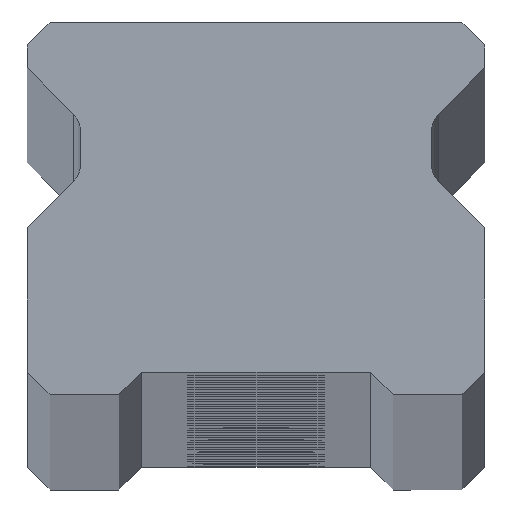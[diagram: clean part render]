
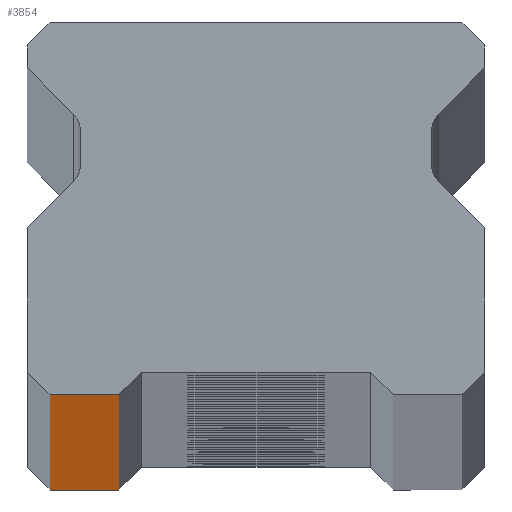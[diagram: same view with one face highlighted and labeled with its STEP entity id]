
A CAD part, top view. The second image highlights one B-rep face of the part: STEP entity #3854.
In plain terms, the highlighted planar face has unit normal (0, -1, 0).
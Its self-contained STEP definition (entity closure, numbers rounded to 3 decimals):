
#289 = VERTEX_POINT ( 'NONE', #838 ) ;
#451 = DIRECTION ( 'NONE',  ( 0., 0., -1. ) ) ;
#592 = EDGE_CURVE ( 'NONE', #5071, #289, #2352, .T. ) ;
#838 = CARTESIAN_POINT ( 'NONE',  ( -9., 0., -1190. ) ) ;
#1080 = VERTEX_POINT ( 'NONE', #6048 ) ;
#1141 = CARTESIAN_POINT ( 'NONE',  ( -6., 0., -1190. ) ) ;
#1292 = DIRECTION ( 'NONE',  ( 0., 1., 0. ) ) ;
#1506 = VECTOR ( 'NONE', #451, 1000. ) ;
#1605 = EDGE_CURVE ( 'NONE', #1805, #1080, #4202, .T. ) ;
#1776 = DIRECTION ( 'NONE',  ( 0., 0., 1. ) ) ;
#1805 = VERTEX_POINT ( 'NONE', #3251 ) ;
#1842 = DIRECTION ( 'NONE',  ( 1., 0., 0. ) ) ;
#2352 = LINE ( 'NONE', #5890, #1506 ) ;
#2429 = ORIENTED_EDGE ( 'NONE', *, *, #1605, .T. ) ;
#2633 = AXIS2_PLACEMENT_3D ( 'NONE', #6679, #1292, #3501 ) ;
#3251 = CARTESIAN_POINT ( 'NONE',  ( -6., 0., -1190. ) ) ;
#3501 = DIRECTION ( 'NONE',  ( -1., 0., 0. ) ) ;
#3504 = CARTESIAN_POINT ( 'NONE',  ( 10., 0., -1190. ) ) ;
#3749 = FACE_OUTER_BOUND ( 'NONE', #5762, .T. ) ;
#3854 = ADVANCED_FACE ( 'NONE', ( #3749 ), #4575, .F. ) ;
#3887 = VECTOR ( 'NONE', #6114, 1000. ) ;
#4020 = LINE ( 'NONE', #5578, #6828 ) ;
#4202 = LINE ( 'NONE', #1141, #5385 ) ;
#4386 = ORIENTED_EDGE ( 'NONE', *, *, #5924, .T. ) ;
#4525 = EDGE_CURVE ( 'NONE', #5071, #1080, #4020, .T. ) ;
#4575 = PLANE ( 'NONE',  #2633 ) ;
#5071 = VERTEX_POINT ( 'NONE', #5195 ) ;
#5195 = CARTESIAN_POINT ( 'NONE',  ( -9., 0., 1190. ) ) ;
#5385 = VECTOR ( 'NONE', #1776, 1000. ) ;
#5578 = CARTESIAN_POINT ( 'NONE',  ( 10., 0., 1190. ) ) ;
#5762 = EDGE_LOOP ( 'NONE', ( #4386, #2429, #6040, #5981 ) ) ;
#5890 = CARTESIAN_POINT ( 'NONE',  ( -9., 0., 1190. ) ) ;
#5924 = EDGE_CURVE ( 'NONE', #289, #1805, #6265, .T. ) ;
#5981 = ORIENTED_EDGE ( 'NONE', *, *, #592, .T. ) ;
#6040 = ORIENTED_EDGE ( 'NONE', *, *, #4525, .F. ) ;
#6048 = CARTESIAN_POINT ( 'NONE',  ( -6., 0., 1190. ) ) ;
#6114 = DIRECTION ( 'NONE',  ( 1., 0., 0. ) ) ;
#6265 = LINE ( 'NONE', #3504, #3887 ) ;
#6679 = CARTESIAN_POINT ( 'NONE',  ( 10., 0., 1190. ) ) ;
#6828 = VECTOR ( 'NONE', #1842, 1000. ) ;
